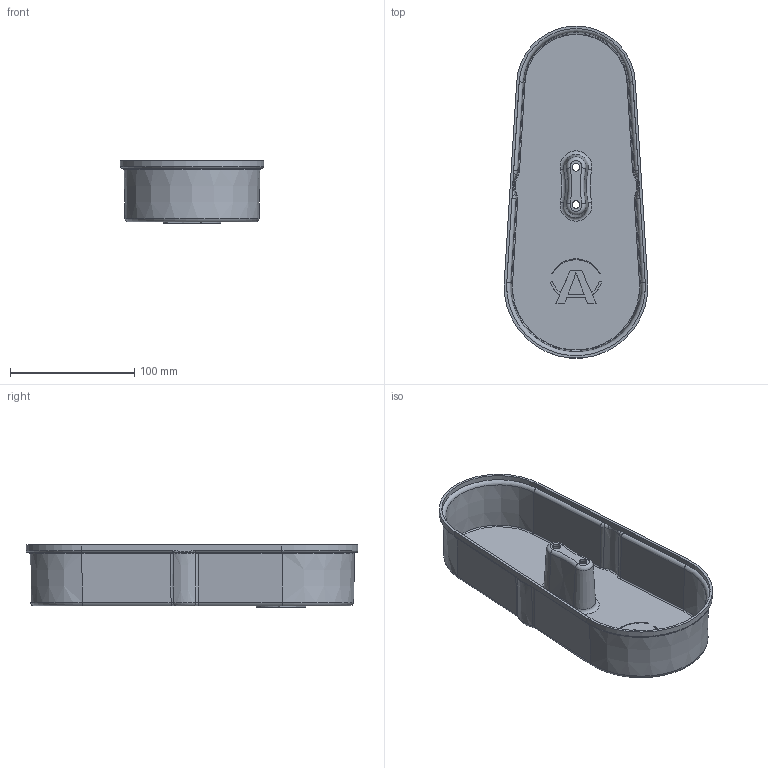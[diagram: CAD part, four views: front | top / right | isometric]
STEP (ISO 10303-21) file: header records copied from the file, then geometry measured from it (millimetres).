
FILE_DESCRIPTION (( 'STEP AP214' ), '1' );
FILE_NAME ('084.832.001.STEP', '2019-05-07T06:49:30', ( '' ), ( '' ), 'SwSTEP 2.0', 'SolidWorks 2018', '' );
FILE_SCHEMA (( 'AUTOMOTIVE_DESIGN' ));
Length unit declared in the file: millimetre
Products named in the file (1): 084.832.001
Bounding box: 115.28 x 266.79 x 50 mm (x, y, z)
Volume: 116775.5 mm3; surface area: 118059.9 mm2
Topology: 1 solids, 1 shells, 211 faces, 524 edges, 324 vertices
Faces by surface type: plane 83, torus 38, bspline 34, cone 30, cylinder 26
Full cylindrical faces by diameter (mm): 6.2 x2
Entity records: 7140 total; most frequent: CARTESIAN_POINT 2282, ORIENTED_EDGE 1044, DIRECTION 970, EDGE_CURVE 522, AXIS2_PLACEMENT_3D 372, VERTEX_POINT 324, VECTOR 226, EDGE_LOOP 226
